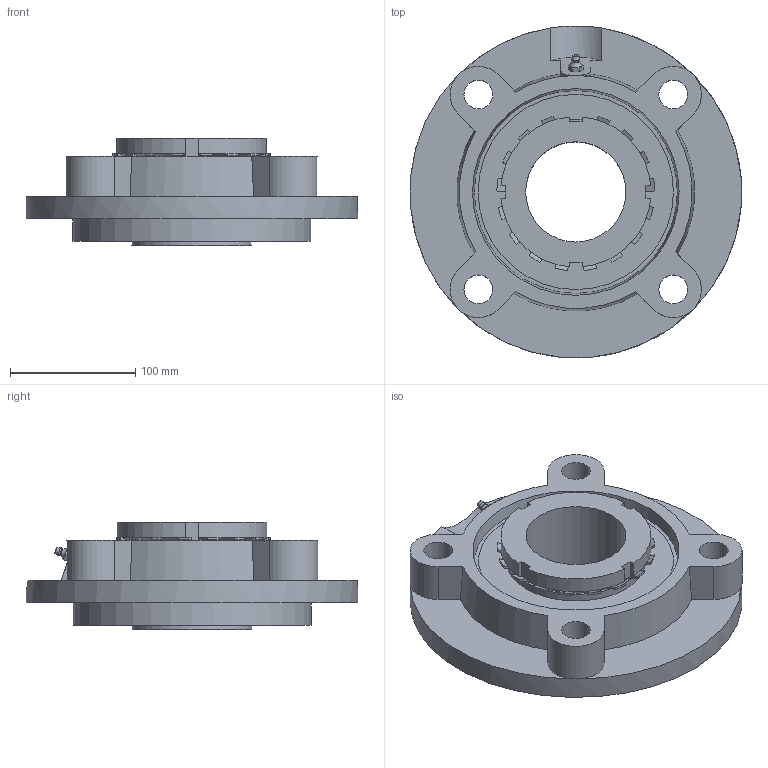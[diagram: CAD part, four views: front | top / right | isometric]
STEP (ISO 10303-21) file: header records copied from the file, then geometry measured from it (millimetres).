
FILE_DESCRIPTION((''),'2;1');
FILE_NAME('\\Ts-tgl068\j-cad-d-base\00.3DCADデータ作成フォルダ\02.フランジ形\UKFC200\UKFC218+H.stp','2014-11-20T16:43:26',('btec_1106_2'),(''),'Autodesk Inventor 2012','Autodesk Inventor 2012','');
FILE_SCHEMA(('AUTOMOTIVE_DESIGN { 1 0 10303 214 1 1 1 1 }'));
Length unit declared in the file: millimetre
Products named in the file (4): UKFC200+H; FC218; UK218; G1
Assembly tree (3 placements, depth 2):
  UKFC200+H
    FC218
    UK218
    G1
Bounding box: 264.69 x 264.92 x 86 mm (x, y, z)
Volume: 1805807.6 mm3; surface area: 267317.8 mm2
Topology: 3 solids, 3 shells, 208 faces, 530 edges, 337 vertices
Faces by surface type: plane 92, cylinder 54, cone 54, sphere 4, bspline 2, torus 2
Full cylindrical faces by diameter (mm): 8.566 x1, 9.728 x1, 23 x4, 80 x1, 90 x1, 111.5 x2, 190 x1, 265 x1
Entity records: 6230 total; most frequent: CARTESIAN_POINT 1381, ORIENTED_EDGE 998, DIRECTION 989, EDGE_CURVE 499, AXIS2_PLACEMENT_3D 399, VERTEX_POINT 325, EDGE_LOOP 254, FACE_OUTER_BOUND 208
